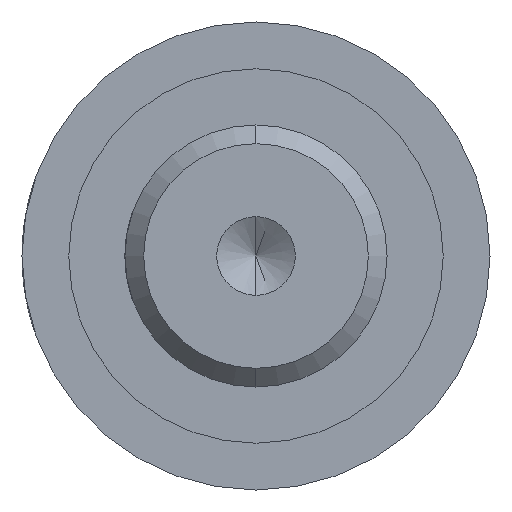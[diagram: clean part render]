
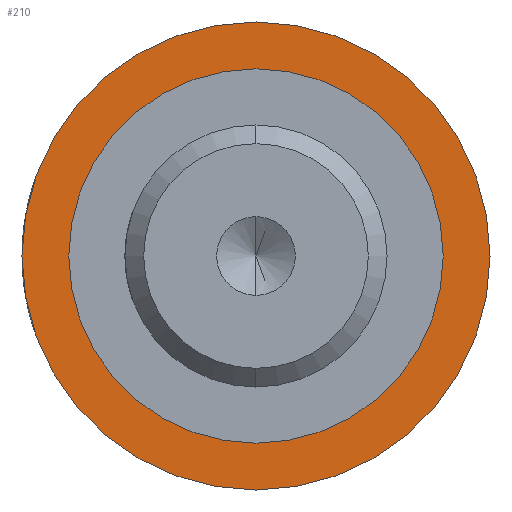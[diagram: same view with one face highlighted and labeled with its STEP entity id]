
A CAD part, left-side view. The second image highlights one B-rep face of the part: STEP entity #210.
In plain terms, the highlighted planar face has unit normal (-1, 0, 0).
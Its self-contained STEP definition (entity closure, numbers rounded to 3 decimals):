
#51 = VERTEX_POINT ( 'NONE', #907 ) ;
#67 = VERTEX_POINT ( 'NONE', #889 ) ;
#71 = VERTEX_POINT ( 'NONE', #883 ) ;
#73 = VERTEX_POINT ( 'NONE', #968 ) ;
#81 = EDGE_CURVE ( 'NONE', #73, #71, #879, .T. ) ;
#92 = EDGE_CURVE ( 'NONE', #51, #67, #1082, .T. ) ;
#151 = ORIENTED_EDGE ( 'NONE', *, *, #304, .F. ) ;
#209 = ORIENTED_EDGE ( 'NONE', *, *, #211, .T. ) ;
#210 = ADVANCED_FACE ( 'NONE', ( #633, #620 ), #619, .T. ) ;
#211 = EDGE_CURVE ( 'NONE', #71, #73, #629, .T. ) ;
#212 = EDGE_LOOP ( 'NONE', ( #214, #209 ) ) ;
#214 = ORIENTED_EDGE ( 'NONE', *, *, #81, .T. ) ;
#216 = EDGE_LOOP ( 'NONE', ( #218, #151 ) ) ;
#218 = ORIENTED_EDGE ( 'NONE', *, *, #92, .F. ) ;
#304 = EDGE_CURVE ( 'NONE', #67, #51, #671, .T. ) ;
#590 = DIRECTION ( 'NONE',  ( -1., 0., 0. ) ) ;
#607 = DIRECTION ( 'NONE',  ( 0., 0., -1. ) ) ;
#608 = DIRECTION ( 'NONE',  ( 1., 0., 0. ) ) ;
#609 = AXIS2_PLACEMENT_3D ( 'NONE', #673, #608, #607 ) ;
#619 = PLANE ( 'NONE',  #776 ) ;
#620 = FACE_OUTER_BOUND ( 'NONE', #216, .T. ) ;
#621 = CARTESIAN_POINT ( 'NONE',  ( 81., 12.5, 0. ) ) ;
#626 = DIRECTION ( 'NONE',  ( 0., 0., -1. ) ) ;
#627 = DIRECTION ( 'NONE',  ( 1., 0., 0. ) ) ;
#628 = AXIS2_PLACEMENT_3D ( 'NONE', #665, #627, #626 ) ;
#629 = CIRCLE ( 'NONE', #628, 10. ) ;
#633 = FACE_BOUND ( 'NONE', #212, .T. ) ;
#665 = CARTESIAN_POINT ( 'NONE',  ( 81., 0., 0. ) ) ;
#671 = CIRCLE ( 'NONE', #609, 12.5 ) ;
#673 = CARTESIAN_POINT ( 'NONE',  ( 81., 0., 0. ) ) ;
#776 = AXIS2_PLACEMENT_3D ( 'NONE', #621, #590, #777 ) ;
#777 = DIRECTION ( 'NONE',  ( 0., 0., 1. ) ) ;
#879 = CIRCLE ( 'NONE', #988, 10. ) ;
#883 = CARTESIAN_POINT ( 'NONE',  ( 81., 0., 10. ) ) ;
#889 = CARTESIAN_POINT ( 'NONE',  ( 81., 0., 12.5 ) ) ;
#907 = CARTESIAN_POINT ( 'NONE',  ( 81., 0., -12.5 ) ) ;
#968 = CARTESIAN_POINT ( 'NONE',  ( 81., 0., -10. ) ) ;
#978 = DIRECTION ( 'NONE',  ( 0., 0., -1. ) ) ;
#979 = DIRECTION ( 'NONE',  ( 1., 0., 0. ) ) ;
#988 = AXIS2_PLACEMENT_3D ( 'NONE', #993, #979, #978 ) ;
#993 = CARTESIAN_POINT ( 'NONE',  ( 81., 0., 0. ) ) ;
#1004 = DIRECTION ( 'NONE',  ( 0., 0., -1. ) ) ;
#1005 = DIRECTION ( 'NONE',  ( 1., 0., 0. ) ) ;
#1006 = AXIS2_PLACEMENT_3D ( 'NONE', #1084, #1005, #1004 ) ;
#1082 = CIRCLE ( 'NONE', #1006, 12.5 ) ;
#1084 = CARTESIAN_POINT ( 'NONE',  ( 81., 0., 0. ) ) ;
